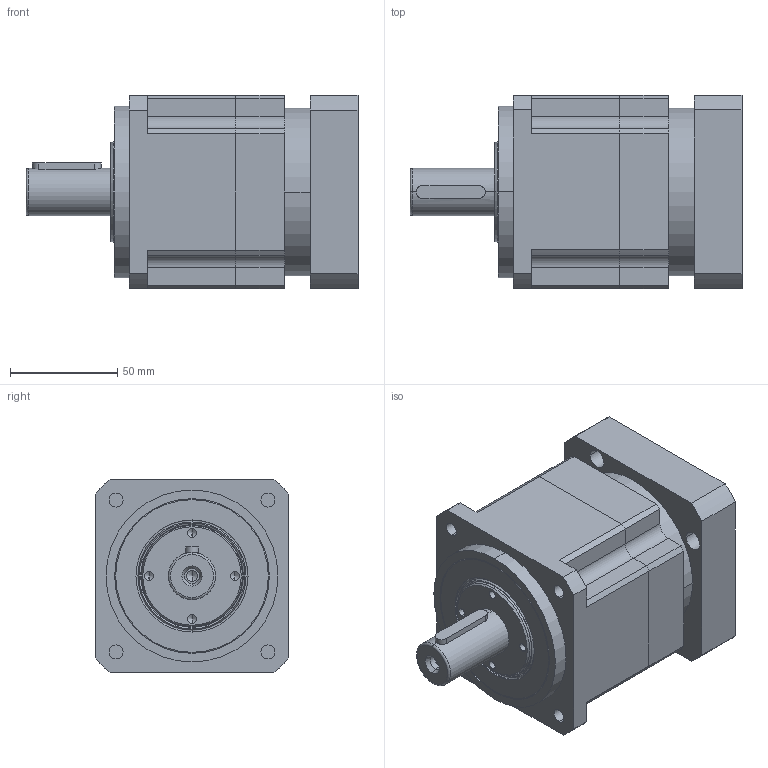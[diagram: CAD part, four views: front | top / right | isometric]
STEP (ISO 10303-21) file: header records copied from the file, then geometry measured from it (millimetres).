
FILE_DESCRIPTION (( 'STEP AP203' ), '1' );
FILE_NAME ('PAG090-L1-19-70-90.STEP', '2023-05-12T02:10:15', ( 'Windows User' ), ( 'P R C' ), 'SwSTEP 2.0', 'SolidWorks 2016', '' );
FILE_SCHEMA (( 'CONFIG_CONTROL_DESIGN' ));
Length unit declared in the file: millimetre
Products named in the file (6): PAG090奻裔啣; PAG090帣釱19-70-90; 油封範本 TC 72x50x8_TC-34.9-55-7; 内六角圆柱头螺钉M6×16; A倰す瑩 6x6x32; PAG090-L1-19-70-90
Assembly tree (5 placements, depth 2):
  PAG090-L1-19-70-90
    PAG090奻裔啣
    PAG090帣釱19-70-90
    油封範本 TC 72x50x8_TC-34.9-55-7
    内六角圆柱头螺钉M6×16
    A倰す瑩 6x6x32
Bounding box: 154.5 x 90 x 90 mm (x, y, z)
Volume: 712837 mm3; surface area: 114243.7 mm2
Topology: 5 solids, 5 shells, 395 faces, 1000 edges, 643 vertices
Faces by surface type: plane 151, cylinder 146, bspline 42, cone 36, torus 20
Entity records: 16252 total; most frequent: CARTESIAN_POINT 6106, DIRECTION 1973, ORIENTED_EDGE 1960, EDGE_CURVE 980, AXIS2_PLACEMENT_3D 727, VERTEX_POINT 643, LINE 519, VECTOR 519
